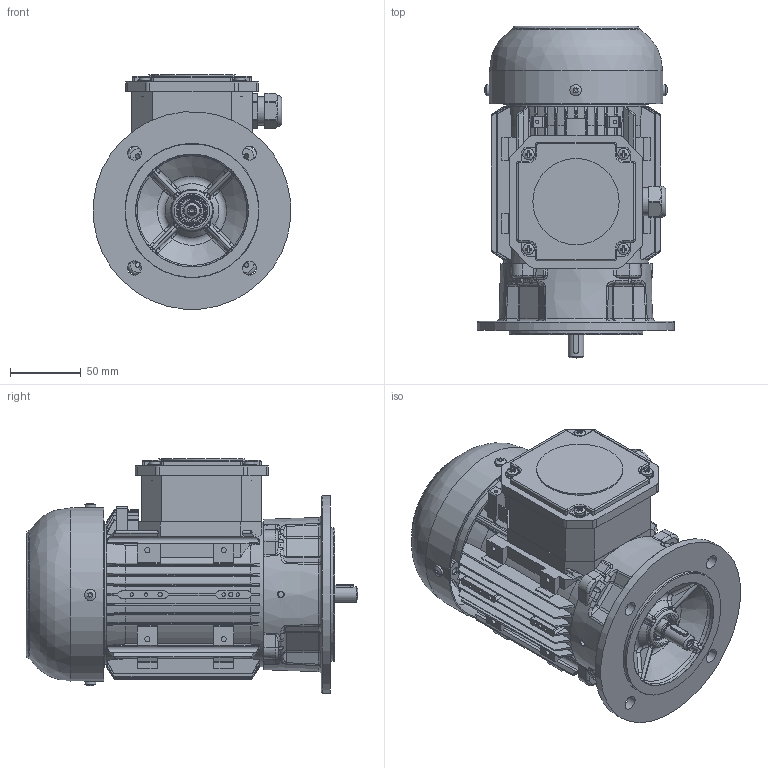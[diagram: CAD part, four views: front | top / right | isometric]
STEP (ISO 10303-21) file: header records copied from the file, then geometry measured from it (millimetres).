
FILE_DESCRIPTION(/* description */ (''),/* implementation_level */ '2;1');
FILE_NAME(/* name */ 'OUTLOOK VIEW QH63 FA B5 FF115 SPL.stp',/* time_stamp */ '2021-09-21T11:07:31+03:00',/* author */ (''),/* organization */ (''),/* preprocessor_version */ 'ST-DEVELOPER v16',/* originating_system */ 'SIEMENS PLM Software NX 11.0',/* authorisation */ '');
FILE_SCHEMA (('AUTOMOTIVE_DESIGN { 1 0 10303 214 3 1 1 1 }'));
Products named in the file (1): 260652D491E0rv9c
Bounding box: 139.47 x 234.84 x 165.74 mm (x, y, z)
Volume: 626590 mm3; surface area: 389606.4 mm2
Topology: 39 solids, 41 shells, 2914 faces, 7560 edges, 4771 vertices
Faces by surface type: plane 1168, cylinder 917, bspline 447, cone 214, torus 119, sphere 34, extrusion 15
Full cylindrical faces by diameter (mm): 1.7 x2, 2.5 x12, 3 x4, 3.15 x1, 3.3 x10, 3.65 x14, 4 x9, 4.3 x1, 4.5 x4, 4.65 x4, 4.8 x4, 5 x4, 5.1 x1, 5.5 x1, 8 x9, 10 x4, 10.4 x1, 11 x2, 11.4 x2, 11.5 x1, 12 x5, 12.2 x1, 12.5 x1, 13 x1, 14.5 x1, 15.5 x2, 18 x1, 18.45 x8, 18.5 x1, 18.9 x1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
Entity records: 101563 total; most frequent: CARTESIAN_POINT 30304, ORIENTED_EDGE 14130, DIRECTION 13042, EDGE_CURVE 7065, AXIS2_PLACEMENT_3D 4997, VERTEX_POINT 4677, EDGE_LOOP 3512, VECTOR 3048
